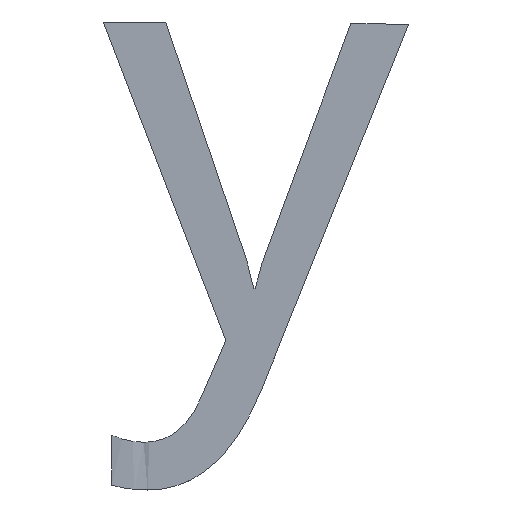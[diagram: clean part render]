
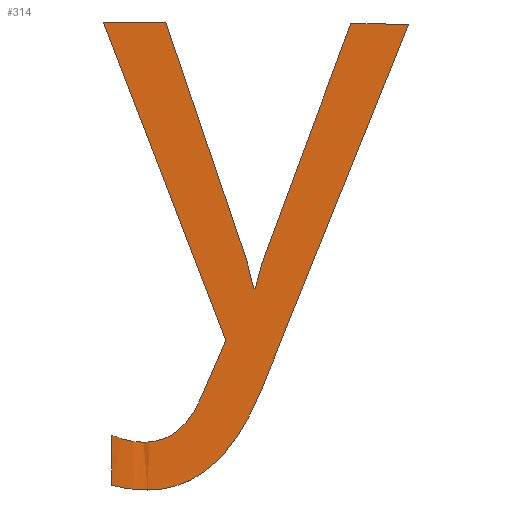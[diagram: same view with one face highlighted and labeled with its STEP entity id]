
A CAD part, top view. The second image highlights one B-rep face of the part: STEP entity #314.
In plain terms, the highlighted planar face has unit normal (0, 0, 1).
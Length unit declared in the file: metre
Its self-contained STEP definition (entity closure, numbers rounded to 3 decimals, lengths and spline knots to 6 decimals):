
#18=CIRCLE('',#449,0.000022);
#23=B_SPLINE_CURVE_WITH_KNOTS('',3,(#576,#577,#578,#579),.UNSPECIFIED.,
 .F.,.F.,(4,4),(12.,13.),.UNSPECIFIED.);
#24=B_SPLINE_CURVE_WITH_KNOTS('',3,(#593,#594,#595,#596),.UNSPECIFIED.,
 .F.,.F.,(4,4),(5.,6.),.UNSPECIFIED.);
#25=B_SPLINE_CURVE_WITH_KNOTS('',3,(#600,#601,#602,#603),.UNSPECIFIED.,
 .F.,.F.,(4,4),(2.,3.),.UNSPECIFIED.);
#26=B_SPLINE_CURVE_WITH_KNOTS('',3,(#605,#606,#607,#608),.UNSPECIFIED.,
 .F.,.F.,(4,4),(1.,2.),.UNSPECIFIED.);
#42=ORIENTED_EDGE('',*,*,#128,.T.);
#43=ORIENTED_EDGE('',*,*,#129,.T.);
#44=ORIENTED_EDGE('',*,*,#130,.T.);
#45=ORIENTED_EDGE('',*,*,#131,.T.);
#46=ORIENTED_EDGE('',*,*,#132,.T.);
#47=ORIENTED_EDGE('',*,*,#133,.T.);
#48=ORIENTED_EDGE('',*,*,#134,.T.);
#49=ORIENTED_EDGE('',*,*,#135,.T.);
#50=ORIENTED_EDGE('',*,*,#136,.T.);
#51=ORIENTED_EDGE('',*,*,#137,.T.);
#52=ORIENTED_EDGE('',*,*,#138,.T.);
#53=ORIENTED_EDGE('',*,*,#139,.T.);
#54=ORIENTED_EDGE('',*,*,#140,.T.);
#55=ORIENTED_EDGE('',*,*,#141,.T.);
#56=ORIENTED_EDGE('',*,*,#142,.T.);
#128=EDGE_CURVE('',#171,#172,#194,.T.);
#129=EDGE_CURVE('',#172,#173,#195,.T.);
#130=EDGE_CURVE('',#173,#174,#23,.T.);
#131=EDGE_CURVE('',#174,#175,#196,.T.);
#132=EDGE_CURVE('',#175,#176,#197,.T.);
#133=EDGE_CURVE('',#176,#177,#198,.T.);
#134=EDGE_CURVE('',#177,#178,#199,.T.);
#135=EDGE_CURVE('',#178,#179,#200,.T.);
#136=EDGE_CURVE('',#179,#180,#201,.T.);
#137=EDGE_CURVE('',#180,#162,#24,.T.);
#138=EDGE_CURVE('',#162,#161,#18,.T.);
#139=EDGE_CURVE('',#161,#181,#202,.T.);
#140=EDGE_CURVE('',#181,#182,#25,.T.);
#141=EDGE_CURVE('',#182,#183,#26,.T.);
#142=EDGE_CURVE('',#183,#171,#203,.T.);
#161=VERTEX_POINT('',#544);
#162=VERTEX_POINT('',#546);
#171=VERTEX_POINT('',#572);
#172=VERTEX_POINT('',#573);
#173=VERTEX_POINT('',#575);
#174=VERTEX_POINT('',#580);
#175=VERTEX_POINT('',#582);
#176=VERTEX_POINT('',#584);
#177=VERTEX_POINT('',#586);
#178=VERTEX_POINT('',#588);
#179=VERTEX_POINT('',#590);
#180=VERTEX_POINT('',#592);
#181=VERTEX_POINT('',#599);
#182=VERTEX_POINT('',#604);
#183=VERTEX_POINT('',#609);
#194=LINE('',#571,#227);
#195=LINE('',#574,#228);
#196=LINE('',#581,#229);
#197=LINE('',#583,#230);
#198=LINE('',#585,#231);
#199=LINE('',#587,#232);
#200=LINE('',#589,#233);
#201=LINE('',#591,#234);
#202=LINE('',#598,#235);
#203=LINE('',#610,#236);
#227=VECTOR('',#479,1.);
#228=VECTOR('',#480,1.);
#229=VECTOR('',#481,1.);
#230=VECTOR('',#482,1.);
#231=VECTOR('',#483,1.);
#232=VECTOR('',#484,1.);
#233=VECTOR('',#485,1.);
#234=VECTOR('',#486,1.);
#235=VECTOR('',#489,1.);
#236=VECTOR('',#490,1.);
#251=EDGE_LOOP('',(#42,#43,#44,#45,#46,#47,#48,#49,#50,#51,#52,#53,#54,
#55,#56));
#268=FACE_BOUND('',#251,.T.);
#285=PLANE('',#448);
#314=ADVANCED_FACE('',(#268),#285,.T.);
#448=AXIS2_PLACEMENT_3D('',#570,#477,#478);
#449=AXIS2_PLACEMENT_3D('',#597,#487,#488);
#477=DIRECTION('',(0.,0.,1.));
#478=DIRECTION('',(-1.,0.,0.));
#479=DIRECTION('',(-1.,0.007,0.));
#480=DIRECTION('',(-0.348,-0.938,0.));
#481=DIRECTION('',(-1.,0.007,0.));
#482=DIRECTION('',(-0.246,0.969,0.));
#483=DIRECTION('',(-0.322,0.947,0.));
#484=DIRECTION('',(-1.,0.007,0.));
#485=DIRECTION('',(0.359,-0.933,0.));
#486=DIRECTION('',(-0.396,-0.918,0.));
#487=DIRECTION('',(0.,0.,-1.));
#488=DIRECTION('',(-1.,0.,0.));
#489=DIRECTION('',(-0.007,-1.,0.));
#490=DIRECTION('',(0.373,0.928,0.));
#544=CARTESIAN_POINT('',(-0.12107,-0.065833,0.011051));
#546=CARTESIAN_POINT('',(-0.121061,-0.065834,0.011051));
#570=CARTESIAN_POINT('',(-0.121042,-0.065841,0.011051));
#571=CARTESIAN_POINT('',(-0.121004,-0.06572,0.011051));
#572=CARTESIAN_POINT('',(-0.120988,-0.06572,0.011051));
#573=CARTESIAN_POINT('',(-0.121004,-0.06572,0.011051));
#574=CARTESIAN_POINT('',(-0.121028,-0.065785,0.011051));
#575=CARTESIAN_POINT('',(-0.121028,-0.065785,0.011051));
#576=CARTESIAN_POINT('',(-0.121028,-0.065785,0.011051));
#577=CARTESIAN_POINT('',(-0.121029,-0.065788,0.011051));
#578=CARTESIAN_POINT('',(-0.12103,-0.065791,0.011051));
#579=CARTESIAN_POINT('',(-0.12103,-0.065792,0.011051));
#580=CARTESIAN_POINT('',(-0.12103,-0.065792,0.011051));
#581=CARTESIAN_POINT('',(-0.121031,-0.065792,0.011051));
#582=CARTESIAN_POINT('',(-0.121031,-0.065792,0.011051));
#583=CARTESIAN_POINT('',(-0.121032,-0.065785,0.011051));
#584=CARTESIAN_POINT('',(-0.121032,-0.065785,0.011051));
#585=CARTESIAN_POINT('',(-0.121055,-0.065719,0.011051));
#586=CARTESIAN_POINT('',(-0.121055,-0.065719,0.011051));
#587=CARTESIAN_POINT('',(-0.121072,-0.065719,0.011051));
#588=CARTESIAN_POINT('',(-0.121072,-0.065719,0.011051));
#589=CARTESIAN_POINT('',(-0.121038,-0.065806,0.011051));
#590=CARTESIAN_POINT('',(-0.121038,-0.065806,0.011051));
#591=CARTESIAN_POINT('',(-0.121045,-0.065822,0.011051));
#592=CARTESIAN_POINT('',(-0.121045,-0.065822,0.011051));
#593=CARTESIAN_POINT('',(-0.121045,-0.065822,0.011051));
#594=CARTESIAN_POINT('',(-0.121049,-0.06583,0.011051));
#595=CARTESIAN_POINT('',(-0.121054,-0.065834,0.011051));
#596=CARTESIAN_POINT('',(-0.121061,-0.065834,0.011051));
#597=CARTESIAN_POINT('',(-0.121061,-0.065812,0.011051));
#598=CARTESIAN_POINT('',(-0.12107,-0.065846,0.011051));
#599=CARTESIAN_POINT('',(-0.12107,-0.065846,0.011051));
#600=CARTESIAN_POINT('',(-0.12107,-0.065846,0.011051));
#601=CARTESIAN_POINT('',(-0.121067,-0.065847,0.011051));
#602=CARTESIAN_POINT('',(-0.121064,-0.065847,0.011051));
#603=CARTESIAN_POINT('',(-0.12106,-0.065847,0.011051));
#604=CARTESIAN_POINT('',(-0.12106,-0.065847,0.011051));
#605=CARTESIAN_POINT('',(-0.12106,-0.065847,0.011051));
#606=CARTESIAN_POINT('',(-0.121046,-0.065848,0.011051));
#607=CARTESIAN_POINT('',(-0.121036,-0.065838,0.011051));
#608=CARTESIAN_POINT('',(-0.121028,-0.06582,0.011051));
#609=CARTESIAN_POINT('',(-0.121028,-0.06582,0.011051));
#610=CARTESIAN_POINT('',(-0.120988,-0.06572,0.011051));
